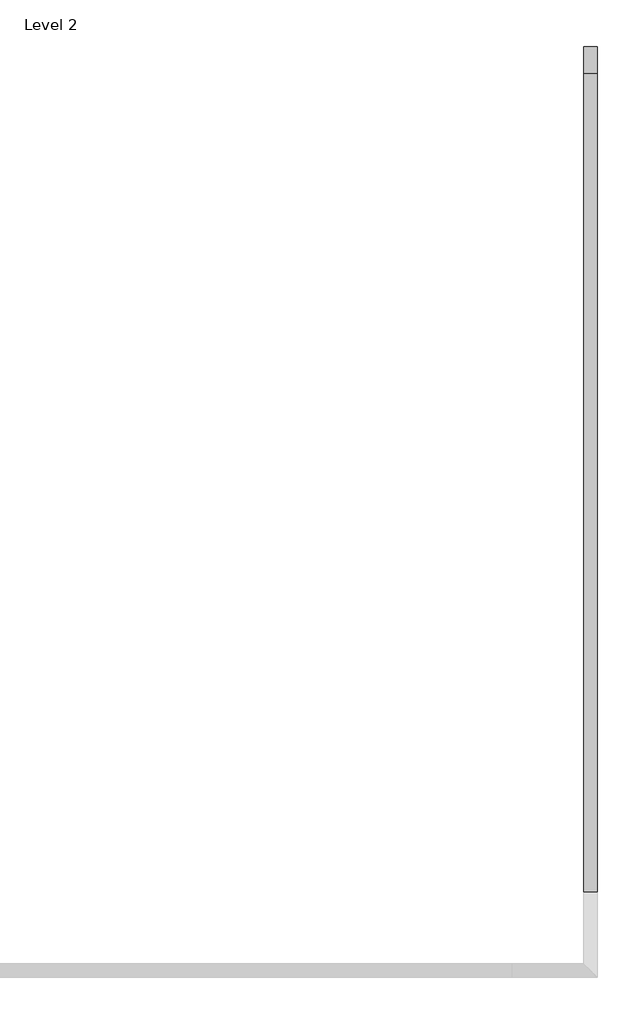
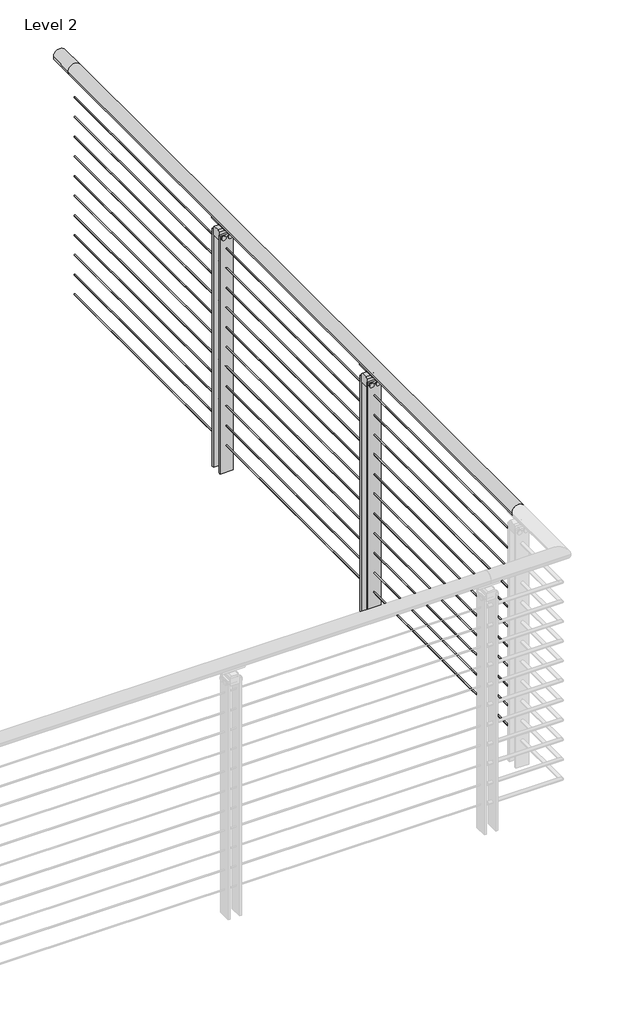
# One storey, part 27 of 31: 1 railing.
"""IFC4 building model written with IfcOpenShell, lengths in millimetres."""

from ifc_helpers import new_model, si_unit, point, frame, frame_2d, origin, place, context, project, spatial, polyline, circle_curve, trimmed, segment, composite_curve, outline, extrude, element, save
from ifc_brep_helpers import plane_surface, cylinder_surface, revolved_surface, advanced_brep

model = new_model("IFC4")

# Units and contexts
model_context = context("Model", 3, world=origin())
ifc_project = project(units=[si_unit("LENGTHUNIT", "METRE", prefix="MILLI")], contexts=[model_context])

# Site, building, storey
site = spatial("IfcSite", under=ifc_project)
building = spatial("IfcBuilding", under=site)
storey = spatial("IfcBuildingStorey", under=building, Name="Level 2", Elevation=3048.0)

# Railing
placement = place(None, origin())
element("IfcRailing", 1, ObjectType="VIVA-BLADE-Cable-Weld Mount-Straight", at=placement, inside=storey, context=model_context, shape_type="SolidModel", body=[
    advanced_brep(
    [(46443.7086583, -51926.9426165, 4102.1), (46392.9086583, -51926.9426165, 4102.1), (46443.7086583, -48878.9426165, 4102.1), (46392.9086583, -48878.9426165, 4102.1), (46443.7086583, -48777.3426165, 4102.1), (46392.9086583, -48777.3426165, 4102.1)],
    [
        (0, 1, circle_curve(frame((46418.3086583, -51926.9426165, 4102.1), z_axis=(0.0, -1.0, 0.0), x_axis=(-1.0, 0.0, 0.0)), 25.4)),
        (1, 0, circle_curve(frame((46418.3086583, -51926.9426165, 4102.1), z_axis=(0.0, -1.0, 0.0), x_axis=(-1.0, 0.0, 0.0)), 25.4)),
        (0, 2),
        (2, 3, circle_curve(frame((46418.3086583, -48878.9426165, 4102.1), z_axis=(0.0, -1.0, 0.0), x_axis=(-1.0, 0.0, 0.0)), 25.4)),
        (3, 1),
        (3, 2, circle_curve(frame((46418.3086583, -48878.9426165, 4102.1), z_axis=(0.0, -1.0, 0.0), x_axis=(-1.0, 0.0, 0.0)), 25.4)),
        (4, 5, circle_curve(frame((46418.3086583, -48777.3426165, 4102.1), z_axis=(0.0, 1.0, 0.0), x_axis=(-1.0, 0.0, 0.0)), 25.4)),
        (5, 4, circle_curve(frame((46418.3086583, -48777.3426165, 4102.1), z_axis=(0.0, 1.0, 0.0), x_axis=(-1.0, 0.0, 0.0)), 25.4)),
        (2, 4),
        (5, 3),
    ],
    [
        plane_surface(frame((46418.3086583, -51926.9426165, 4127.5), z_axis=(0.0, -1.0, 0.0), x_axis=(0.0, 0.0, 1.0))),
        cylinder_surface(frame((46418.3086583, -51926.9426165, 4102.1), z_axis=(0.0, -1.0, 0.0), x_axis=(-1.0, 0.0, 0.0)), 25.4),
        plane_surface(frame((46418.3086583, -48777.3426165, 4127.5), z_axis=(0.0, 1.0, 0.0), x_axis=(0.0, 0.0, 1.0))),
        cylinder_surface(frame((46418.3086583, -48878.9426165, 4102.1), z_axis=(0.0, -1.0, 0.0), x_axis=(-1.0, 0.0, 0.0)), 25.4),
    ],
    [
        (0, [[1, 2]]),
        (1, [[-1, 3, 4, 5]]),
        (1, [[-2, -5, 6, -3]]),
        (2, [[7, 8]]),
        (3, [[-4, 9, -8, 10]]),
        (3, [[-6, -10, -7, -9]]),
    ],
),
    extrude(outline(composite_curve([segment(trimmed(circle_curve(frame_2d((3985.4124, 46418.3086583)), 2.3876), [point((3985.4124, 46415.9210583))], [point((3985.4124, 46420.6962583))], False, "CARTESIAN"), True, "CONTINUOUS"), segment(trimmed(circle_curve(frame_2d((3985.4124, 46418.3086583)), 2.3876), [point((3985.4124, 46420.6962583))], [point((3985.4124, 46415.9210583))], False, "CARTESIAN"), True, "CONTINUOUS")], self_intersect=False)), frame((0.0, -51926.9426165, 0.0), z_axis=(0.0, 1.0, 0.0), x_axis=(0.0, 0.0, 1.0)), (0.0, 0.0, 1.0), 3048.0),
    extrude(outline(composite_curve([segment(trimmed(circle_curve(frame_2d((3902.8624, 46418.3086583)), 2.3876), [point((3902.8624, 46415.9210583))], [point((3902.8624, 46420.6962583))], False, "CARTESIAN"), True, "CONTINUOUS"), segment(trimmed(circle_curve(frame_2d((3902.8624, 46418.3086583)), 2.3876), [point((3902.8624, 46420.6962583))], [point((3902.8624, 46415.9210583))], False, "CARTESIAN"), True, "CONTINUOUS")], self_intersect=False)), frame((0.0, -51926.9426165, 0.0), z_axis=(0.0, 1.0, 0.0), x_axis=(0.0, 0.0, 1.0)), (0.0, 0.0, 1.0), 3048.0),
    extrude(outline(composite_curve([segment(trimmed(circle_curve(frame_2d((3820.3124, 46418.3086583)), 2.3876), [point((3820.3124, 46415.9210583))], [point((3820.3124, 46420.6962583))], False, "CARTESIAN"), True, "CONTINUOUS"), segment(trimmed(circle_curve(frame_2d((3820.3124, 46418.3086583)), 2.3876), [point((3820.3124, 46420.6962583))], [point((3820.3124, 46415.9210583))], False, "CARTESIAN"), True, "CONTINUOUS")], self_intersect=False)), frame((0.0, -51926.9426165, 0.0), z_axis=(0.0, 1.0, 0.0), x_axis=(0.0, 0.0, 1.0)), (0.0, 0.0, 1.0), 3048.0),
    extrude(outline(composite_curve([segment(trimmed(circle_curve(frame_2d((3737.7624, 46418.3086583)), 2.3876), [point((3737.7624, 46415.9210583))], [point((3737.7624, 46420.6962583))], False, "CARTESIAN"), True, "CONTINUOUS"), segment(trimmed(circle_curve(frame_2d((3737.7624, 46418.3086583)), 2.3876), [point((3737.7624, 46420.6962583))], [point((3737.7624, 46415.9210583))], False, "CARTESIAN"), True, "CONTINUOUS")], self_intersect=False)), frame((0.0, -51926.9426165, 0.0), z_axis=(0.0, 1.0, 0.0), x_axis=(0.0, 0.0, 1.0)), (0.0, 0.0, 1.0), 3048.0),
    extrude(outline(composite_curve([segment(trimmed(circle_curve(frame_2d((3655.2124, 46418.3086583)), 2.3876), [point((3655.2124, 46415.9210583))], [point((3655.2124, 46420.6962583))], False, "CARTESIAN"), True, "CONTINUOUS"), segment(trimmed(circle_curve(frame_2d((3655.2124, 46418.3086583)), 2.3876), [point((3655.2124, 46420.6962583))], [point((3655.2124, 46415.9210583))], False, "CARTESIAN"), True, "CONTINUOUS")], self_intersect=False)), frame((0.0, -51926.9426165, 0.0), z_axis=(0.0, 1.0, 0.0), x_axis=(0.0, 0.0, 1.0)), (0.0, 0.0, 1.0), 3048.0),
    extrude(outline(composite_curve([segment(trimmed(circle_curve(frame_2d((3572.6624, 46418.3086583)), 2.3876), [point((3572.6624, 46415.9210583))], [point((3572.6624, 46420.6962583))], False, "CARTESIAN"), True, "CONTINUOUS"), segment(trimmed(circle_curve(frame_2d((3572.6624, 46418.3086583)), 2.3876), [point((3572.6624, 46420.6962583))], [point((3572.6624, 46415.9210583))], False, "CARTESIAN"), True, "CONTINUOUS")], self_intersect=False)), frame((0.0, -51926.9426165, 0.0), z_axis=(0.0, 1.0, 0.0), x_axis=(0.0, 0.0, 1.0)), (0.0, 0.0, 1.0), 3048.0),
    extrude(outline(composite_curve([segment(trimmed(circle_curve(frame_2d((3490.1124, 46418.3086583)), 2.3876), [point((3490.1124, 46415.9210583))], [point((3490.1124, 46420.6962583))], False, "CARTESIAN"), True, "CONTINUOUS"), segment(trimmed(circle_curve(frame_2d((3490.1124, 46418.3086583)), 2.3876), [point((3490.1124, 46420.6962583))], [point((3490.1124, 46415.9210583))], False, "CARTESIAN"), True, "CONTINUOUS")], self_intersect=False)), frame((0.0, -51926.9426165, 0.0), z_axis=(0.0, 1.0, 0.0), x_axis=(0.0, 0.0, 1.0)), (0.0, 0.0, 1.0), 3048.0),
    extrude(outline(composite_curve([segment(trimmed(circle_curve(frame_2d((3407.5624, 46418.3086583)), 2.3876), [point((3407.5624, 46415.9210583))], [point((3407.5624, 46420.6962583))], False, "CARTESIAN"), True, "CONTINUOUS"), segment(trimmed(circle_curve(frame_2d((3407.5624, 46418.3086583)), 2.3876), [point((3407.5624, 46420.6962583))], [point((3407.5624, 46415.9210583))], False, "CARTESIAN"), True, "CONTINUOUS")], self_intersect=False)), frame((0.0, -51926.9426165, 0.0), z_axis=(0.0, 1.0, 0.0), x_axis=(0.0, 0.0, 1.0)), (0.0, 0.0, 1.0), 3048.0),
    extrude(outline(composite_curve([segment(trimmed(circle_curve(frame_2d((3325.0124, 46418.3086583)), 2.3876), [point((3325.0124, 46415.9210583))], [point((3325.0124, 46420.6962583))], False, "CARTESIAN"), True, "CONTINUOUS"), segment(trimmed(circle_curve(frame_2d((3325.0124, 46418.3086583)), 2.3876), [point((3325.0124, 46420.6962583))], [point((3325.0124, 46415.9210583))], False, "CARTESIAN"), True, "CONTINUOUS")], self_intersect=False)), frame((0.0, -51926.9426165, 0.0), z_axis=(0.0, 1.0, 0.0), x_axis=(0.0, 0.0, 1.0)), (0.0, 0.0, 1.0), 3048.0),
    extrude(outline(composite_curve([segment(trimmed(circle_curve(frame_2d((3242.4624, 46418.3086583)), 2.3876), [point((3242.4624, 46415.9210583))], [point((3242.4624, 46420.6962583))], False, "CARTESIAN"), True, "CONTINUOUS"), segment(trimmed(circle_curve(frame_2d((3242.4624, 46418.3086583)), 2.3876), [point((3242.4624, 46420.6962583))], [point((3242.4624, 46415.9210583))], False, "CARTESIAN"), True, "CONTINUOUS")], self_intersect=False)), frame((0.0, -51926.9426165, 0.0), z_axis=(0.0, 1.0, 0.0), x_axis=(0.0, 0.0, 1.0)), (0.0, 0.0, 1.0), 3048.0),
    extrude(outline(composite_curve([segment(trimmed(circle_curve(frame_2d((3159.9124, 46418.3086583)), 2.3876), [point((3159.9124, 46415.9210583))], [point((3159.9124, 46420.6962583))], False, "CARTESIAN"), True, "CONTINUOUS"), segment(trimmed(circle_curve(frame_2d((3159.9124, 46418.3086583)), 2.3876), [point((3159.9124, 46420.6962583))], [point((3159.9124, 46415.9210583))], False, "CARTESIAN"), True, "CONTINUOUS")], self_intersect=False)), frame((0.0, -51926.9426165, 0.0), z_axis=(0.0, 1.0, 0.0), x_axis=(0.0, 0.0, 1.0)), (0.0, 0.0, 1.0), 3048.0),
    advanced_brep(
    [(46405.5485347, -49849.7052165, 4080.0967655), (46430.4205992, -49849.7052165, 4079.9535285), (46433.2295295, -49849.7052165, 4075.1267745), (46401.7126373, -49849.7052165, 4075.707533), (46405.5485347, -49940.1800165, 4080.0967655), (46401.7126373, -49940.1800165, 4075.707533), (46433.3433229, -49940.1800165, 4075.1893964), (46430.5075713, -49940.1800165, 4080.0018447)],
    [
        (0, 1, circle_curve(frame((46418.1123376, -49849.7052165, 4102.2115898), z_axis=(0.0, -1.0, 0.0), x_axis=(-1.0, 0.0, 0.0)), 25.4345159)),
        (1, 2, circle_curve(frame((46431.7522245, -49849.7052165, 4077.4993599), z_axis=(0.0, 1.0, 0.0), x_axis=(-1.0, 0.0, 0.0)), 2.7949225)),
        (2, 3, circle_curve(frame((46417.9788745, -49849.7052165, 4102.9742164), z_axis=(0.0, 1.0, 0.0), x_axis=(-1.0, 0.0, 0.0)), 31.75)),
        (3, 0, circle_curve(frame((46404.000977, -49849.7052165, 4077.5784521), z_axis=(0.0, 1.0, 0.0), x_axis=(-1.0, 0.0, 0.0)), 2.9558141)),
        (4, 5, circle_curve(frame((46404.000977, -49940.1800165, 4077.5784521), z_axis=(0.0, -1.0, 0.0), x_axis=(-1.0, 0.0, 0.0)), 2.9558141)),
        (5, 6, circle_curve(frame((46417.9788745, -49940.1800165, 4102.9742164), z_axis=(0.0, -1.0, 0.0), x_axis=(-1.0, 0.0, 0.0)), 31.75)),
        (6, 7, circle_curve(frame((46431.7522245, -49940.1800165, 4077.4993599), z_axis=(0.0, -1.0, 0.0), x_axis=(-1.0, 0.0, 0.0)), 2.7949225)),
        (7, 4, circle_curve(frame((46418.1123376, -49940.1800165, 4102.2115898), z_axis=(0.0, 1.0, 0.0), x_axis=(-1.0, 0.0, 0.0)), 25.4345159)),
        (0, 4),
        (7, 1),
        (6, 2),
        (5, 3),
    ],
    [
        plane_surface(frame((46392.6778217, -49849.7052165, 4102.2115898), z_axis=(0.0, 1.0, 0.0), x_axis=(0.0, 0.0, -1.0))),
        plane_surface(frame((46392.6778217, -49940.1800165, 4102.2115898), z_axis=(0.0, -1.0, 0.0), x_axis=(0.0, 0.0, 1.0))),
        revolved_surface(polyline([(46392.6778217, -49940.1800165, 4102.2115898), (46392.6778217, -49849.7052165, 4102.2115898)]), (46418.1123376, -49940.1800165, 4102.2115898), (0.0, -1.0, 0.0)),
        cylinder_surface(frame((46431.7522245, -49940.1800165, 4077.4993599), z_axis=(0.0, 1.0, 0.0), x_axis=(-1.0, 0.0, 0.0)), 2.7949225),
        cylinder_surface(frame((46417.9788745, -49940.1800165, 4102.9742164), z_axis=(0.0, 1.0, 0.0), x_axis=(-1.0, 0.0, 0.0)), 31.75),
        cylinder_surface(frame((46404.000977, -49940.1800165, 4077.5784521), z_axis=(0.0, 1.0, 0.0), x_axis=(-1.0, 0.0, 0.0)), 2.9558141),
    ],
    [
        (0, [[1, 2, 3, 4]]),
        (1, [[5, 6, 7, 8]]),
        (2, [[-1, 9, -8, 10]]),
        (3, [[-2, -10, -7, 11]]),
        (4, [[-3, -11, -6, 12]]),
        (5, [[-4, -12, -5, -9]]),
    ],
),
    extrude(outline(composite_curve([segment(polyline([(-49882.2426165, 4062.4125), (-49907.6426165, 4062.4125)]), True, "CONTINUOUS"), segment(trimmed(circle_curve(frame_2d((-49922.0105314, 4062.4125)), 14.3679149), [point((-49907.6426165, 4062.4125))], [point((-49922.0105314, 4076.7804149))], True, "CARTESIAN"), True, "CONTINUOUS"), segment(polyline([(-49922.0105314, 4076.7804149), (-49867.8747017, 4076.7804149)]), True, "CONTINUOUS"), segment(trimmed(circle_curve(frame_2d((-49867.8747017, 4062.4125)), 14.3679149), [point((-49867.8747017, 4076.7804149))], [point((-49882.2426165, 4062.4125))], True, "CARTESIAN"), True, "CONTINUOUS")], self_intersect=False)), frame((46415.7686583, 0.0, 0.0), z_axis=(1.0, 0.0, 0.0), x_axis=(0.0, 1.0, 0.0)), (0.0, 0.0, 1.0), 5.08),
    extrude(outline(polyline([(46392.9088616, -49922.0174522), (46392.9088616, -49913.9926165), (46443.7111863, -49913.9926165), (46443.7111863, -49922.0174522), (46392.9088616, -49922.0174522)])), frame((0.0, 0.0, 3048.0), z_axis=(0.0, 0.0, 1.0), x_axis=(1.0, 0.0, 0.0)), (0.0, 0.0, 1.0), 996.95),
    extrude(outline(composite_curve([segment(trimmed(circle_curve(frame_2d((4034.0416929, 46431.0111352)), 8.89), [point((4034.0416929, 46439.9011352))], [point((4034.0416929, 46422.1211352))], False, "CARTESIAN"), True, "CONTINUOUS"), segment(trimmed(circle_curve(frame_2d((4034.0416929, 46431.0111352)), 8.89), [point((4034.0416929, 46422.1211352))], [point((4034.0416929, 46439.9011352))], False, "CARTESIAN"), True, "CONTINUOUS")], self_intersect=False)), frame((0.0, -49926.6926165, 0.0), z_axis=(0.0, 1.0, 0.0), x_axis=(0.0, 0.0, 1.0)), (0.0, 0.0, 1.0), 63.4880631),
    extrude(outline(composite_curve([segment(trimmed(circle_curve(frame_2d((4034.0416929, 46405.6112373)), 8.89), [point((4034.0416929, 46414.5012373))], [point((4034.0416929, 46396.7212373))], False, "CARTESIAN"), True, "CONTINUOUS"), segment(trimmed(circle_curve(frame_2d((4034.0416929, 46405.6112373)), 8.89), [point((4034.0416929, 46396.7212373))], [point((4034.0416929, 46414.5012373))], False, "CARTESIAN"), True, "CONTINUOUS")], self_intersect=False)), frame((0.0, -49926.6926165, 0.0), z_axis=(0.0, 1.0, 0.0), x_axis=(0.0, 0.0, 1.0)), (0.0, 0.0, 1.0), 63.4880631),
    extrude(outline(polyline([(-49913.9926165, 4022.7123), (-49913.9926165, 4056.0625), (-49907.6426165, 4062.4125), (-49882.2426165, 4062.4125), (-49875.8926165, 4056.0625), (-49875.8926165, 4022.7123), (-49913.9926165, 4022.7123)])), frame((46392.9086583, 0.0, 0.0), z_axis=(1.0, 0.0, 0.0), x_axis=(0.0, 1.0, 0.0)), (0.0, 0.0, 1.0), 50.8025279),
    extrude(outline(polyline([(46392.9088616, -49875.8926546), (46392.9088616, -49867.8916546), (46443.7111863, -49867.8916546), (46443.7111863, -49875.8926546), (46392.9088616, -49875.8926546)])), frame((0.0, 0.0, 3048.0), z_axis=(0.0, 0.0, 1.0), x_axis=(1.0, 0.0, 0.0)), (0.0, 0.0, 1.0), 996.95),
    advanced_brep(
    [(46405.5485347, -50865.7052165, 4080.0967655), (46430.4205992, -50865.7052165, 4079.9535285), (46433.2295295, -50865.7052165, 4075.1267745), (46401.7126373, -50865.7052165, 4075.707533), (46405.5485347, -50956.1800165, 4080.0967655), (46401.7126373, -50956.1800165, 4075.707533), (46433.3433229, -50956.1800165, 4075.1893964), (46430.5075713, -50956.1800165, 4080.0018447)],
    [
        (0, 1, circle_curve(frame((46418.1123376, -50865.7052165, 4102.2115898), z_axis=(0.0, -1.0, 0.0), x_axis=(-1.0, 0.0, 0.0)), 25.4345159)),
        (1, 2, circle_curve(frame((46431.7522245, -50865.7052165, 4077.4993599), z_axis=(0.0, 1.0, 0.0), x_axis=(-1.0, 0.0, 0.0)), 2.7949225)),
        (2, 3, circle_curve(frame((46417.9788745, -50865.7052165, 4102.9742164), z_axis=(0.0, 1.0, 0.0), x_axis=(-1.0, 0.0, 0.0)), 31.75)),
        (3, 0, circle_curve(frame((46404.000977, -50865.7052165, 4077.5784521), z_axis=(0.0, 1.0, 0.0), x_axis=(-1.0, 0.0, 0.0)), 2.9558141)),
        (4, 5, circle_curve(frame((46404.000977, -50956.1800165, 4077.5784521), z_axis=(0.0, -1.0, 0.0), x_axis=(-1.0, 0.0, 0.0)), 2.9558141)),
        (5, 6, circle_curve(frame((46417.9788745, -50956.1800165, 4102.9742164), z_axis=(0.0, -1.0, 0.0), x_axis=(-1.0, 0.0, 0.0)), 31.75)),
        (6, 7, circle_curve(frame((46431.7522245, -50956.1800165, 4077.4993599), z_axis=(0.0, -1.0, 0.0), x_axis=(-1.0, 0.0, 0.0)), 2.7949225)),
        (7, 4, circle_curve(frame((46418.1123376, -50956.1800165, 4102.2115898), z_axis=(0.0, 1.0, 0.0), x_axis=(-1.0, 0.0, 0.0)), 25.4345159)),
        (0, 4),
        (7, 1),
        (6, 2),
        (5, 3),
    ],
    [
        plane_surface(frame((46392.6778217, -50865.7052165, 4102.2115898), z_axis=(0.0, 1.0, 0.0), x_axis=(0.0, 0.0, -1.0))),
        plane_surface(frame((46392.6778217, -50956.1800165, 4102.2115898), z_axis=(0.0, -1.0, 0.0), x_axis=(0.0, 0.0, 1.0))),
        revolved_surface(polyline([(46392.6778217, -50956.1800165, 4102.2115898), (46392.6778217, -50865.7052165, 4102.2115898)]), (46418.1123376, -50956.1800165, 4102.2115898), (0.0, -1.0, 0.0)),
        cylinder_surface(frame((46431.7522245, -50956.1800165, 4077.4993599), z_axis=(0.0, 1.0, 0.0), x_axis=(-1.0, 0.0, 0.0)), 2.7949225),
        cylinder_surface(frame((46417.9788745, -50956.1800165, 4102.9742164), z_axis=(0.0, 1.0, 0.0), x_axis=(-1.0, 0.0, 0.0)), 31.75),
        cylinder_surface(frame((46404.000977, -50956.1800165, 4077.5784521), z_axis=(0.0, 1.0, 0.0), x_axis=(-1.0, 0.0, 0.0)), 2.9558141),
    ],
    [
        (0, [[1, 2, 3, 4]]),
        (1, [[5, 6, 7, 8]]),
        (2, [[-1, 9, -8, 10]]),
        (3, [[-2, -10, -7, 11]]),
        (4, [[-3, -11, -6, 12]]),
        (5, [[-4, -12, -5, -9]]),
    ],
),
    extrude(outline(composite_curve([segment(polyline([(-50898.2426165, 4062.4125), (-50923.6426165, 4062.4125)]), True, "CONTINUOUS"), segment(trimmed(circle_curve(frame_2d((-50938.0105314, 4062.4125)), 14.3679149), [point((-50923.6426165, 4062.4125))], [point((-50938.0105314, 4076.7804149))], True, "CARTESIAN"), True, "CONTINUOUS"), segment(polyline([(-50938.0105314, 4076.7804149), (-50883.8747017, 4076.7804149)]), True, "CONTINUOUS"), segment(trimmed(circle_curve(frame_2d((-50883.8747017, 4062.4125)), 14.3679149), [point((-50883.8747017, 4076.7804149))], [point((-50898.2426165, 4062.4125))], True, "CARTESIAN"), True, "CONTINUOUS")], self_intersect=False)), frame((46415.7686583, 0.0, 0.0), z_axis=(1.0, 0.0, 0.0), x_axis=(0.0, 1.0, 0.0)), (0.0, 0.0, 1.0), 5.08),
    extrude(outline(polyline([(46392.9088616, -50938.0174522), (46392.9088616, -50929.9926165), (46443.7111863, -50929.9926165), (46443.7111863, -50938.0174522), (46392.9088616, -50938.0174522)])), frame((0.0, 0.0, 3048.0), z_axis=(0.0, 0.0, 1.0), x_axis=(1.0, 0.0, 0.0)), (0.0, 0.0, 1.0), 996.95),
    extrude(outline(composite_curve([segment(trimmed(circle_curve(frame_2d((4034.0416929, 46431.0111352)), 8.89), [point((4034.0416929, 46439.9011352))], [point((4034.0416929, 46422.1211352))], False, "CARTESIAN"), True, "CONTINUOUS"), segment(trimmed(circle_curve(frame_2d((4034.0416929, 46431.0111352)), 8.89), [point((4034.0416929, 46422.1211352))], [point((4034.0416929, 46439.9011352))], False, "CARTESIAN"), True, "CONTINUOUS")], self_intersect=False)), frame((0.0, -50942.6926165, 0.0), z_axis=(0.0, 1.0, 0.0), x_axis=(0.0, 0.0, 1.0)), (0.0, 0.0, 1.0), 63.4880631),
    extrude(outline(composite_curve([segment(trimmed(circle_curve(frame_2d((4034.0416929, 46405.6112373)), 8.89), [point((4034.0416929, 46414.5012373))], [point((4034.0416929, 46396.7212373))], False, "CARTESIAN"), True, "CONTINUOUS"), segment(trimmed(circle_curve(frame_2d((4034.0416929, 46405.6112373)), 8.89), [point((4034.0416929, 46396.7212373))], [point((4034.0416929, 46414.5012373))], False, "CARTESIAN"), True, "CONTINUOUS")], self_intersect=False)), frame((0.0, -50942.6926165, 0.0), z_axis=(0.0, 1.0, 0.0), x_axis=(0.0, 0.0, 1.0)), (0.0, 0.0, 1.0), 63.4880631),
    extrude(outline(polyline([(-50929.9926165, 4022.7123), (-50929.9926165, 4056.0625), (-50923.6426165, 4062.4125), (-50898.2426165, 4062.4125), (-50891.8926165, 4056.0625), (-50891.8926165, 4022.7123), (-50929.9926165, 4022.7123)])), frame((46392.9086583, 0.0, 0.0), z_axis=(1.0, 0.0, 0.0), x_axis=(0.0, 1.0, 0.0)), (0.0, 0.0, 1.0), 50.8025279),
    extrude(outline(polyline([(46392.9088616, -50891.8926546), (46392.9088616, -50883.8916546), (46443.7111863, -50883.8916546), (46443.7111863, -50891.8926546), (46392.9088616, -50891.8926546)])), frame((0.0, 0.0, 3048.0), z_axis=(0.0, 0.0, 1.0), x_axis=(1.0, 0.0, 0.0)), (0.0, 0.0, 1.0), 996.95),
])

save(model, "model.ifc")
